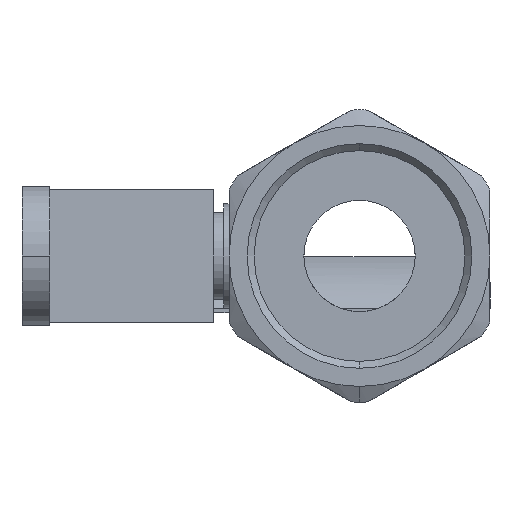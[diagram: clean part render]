
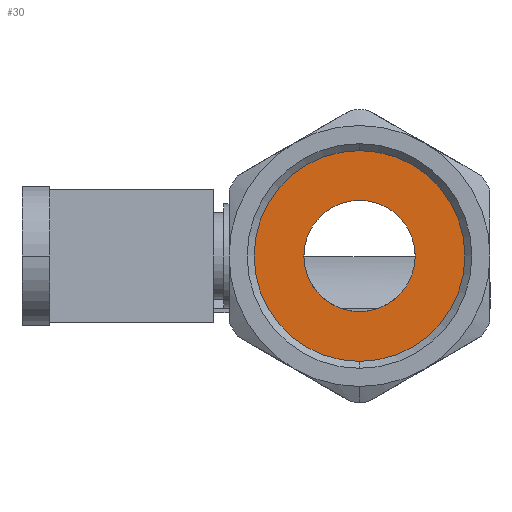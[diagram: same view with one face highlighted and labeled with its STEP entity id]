
A CAD part, left-side view. The second image highlights one B-rep face of the part: STEP entity #30.
In plain terms, the highlighted planar face has unit normal (-1, 0, 0).
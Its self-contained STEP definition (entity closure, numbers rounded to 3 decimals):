
#16 = CARTESIAN_POINT ( 'NONE',  ( -17.5, 0., -8. ) ) ;
#30 = ADVANCED_FACE ( 'NONE', ( #1115, #3441 ), #2626, .F. ) ;
#32 = AXIS2_PLACEMENT_3D ( 'NONE', #3119, #2874, #1114 ) ;
#83 = CIRCLE ( 'NONE', #2396, 15.145 ) ;
#323 = CARTESIAN_POINT ( 'NONE',  ( -17.5, 0., 0. ) ) ;
#515 = CARTESIAN_POINT ( 'NONE',  ( -17.5, 0., 0. ) ) ;
#622 = CIRCLE ( 'NONE', #1945, 8. ) ;
#627 = EDGE_CURVE ( 'NONE', #2382, #887, #1011, .T. ) ;
#638 = DIRECTION ( 'NONE',  ( 0., 0., 1. ) ) ;
#734 = EDGE_CURVE ( 'NONE', #3035, #3264, #622, .T. ) ;
#756 = CARTESIAN_POINT ( 'NONE',  ( -17.5, 0., 15.145 ) ) ;
#767 = CARTESIAN_POINT ( 'NONE',  ( -17.5, 0., 8. ) ) ;
#823 = DIRECTION ( 'NONE',  ( 0., 0., 1. ) ) ;
#842 = EDGE_LOOP ( 'NONE', ( #2654, #1974 ) ) ;
#887 = VERTEX_POINT ( 'NONE', #756 ) ;
#1011 = CIRCLE ( 'NONE', #3854, 15.145 ) ;
#1114 = DIRECTION ( 'NONE',  ( 0., 0., -1. ) ) ;
#1115 = FACE_BOUND ( 'NONE', #2944, .T. ) ;
#1164 = CARTESIAN_POINT ( 'NONE',  ( -17.5, 0., 0. ) ) ;
#1488 = DIRECTION ( 'NONE',  ( 0., 0., 1. ) ) ;
#1638 = DIRECTION ( 'NONE',  ( -1., 0., 0. ) ) ;
#1823 = CIRCLE ( 'NONE', #1975, 8. ) ;
#1945 = AXIS2_PLACEMENT_3D ( 'NONE', #3435, #1638, #3744 ) ;
#1974 = ORIENTED_EDGE ( 'NONE', *, *, #627, .T. ) ;
#1975 = AXIS2_PLACEMENT_3D ( 'NONE', #515, #2666, #823 ) ;
#2211 = EDGE_CURVE ( 'NONE', #3264, #3035, #1823, .T. ) ;
#2248 = EDGE_CURVE ( 'NONE', #887, #2382, #83, .T. ) ;
#2382 = VERTEX_POINT ( 'NONE', #2727 ) ;
#2396 = AXIS2_PLACEMENT_3D ( 'NONE', #1164, #3289, #1488 ) ;
#2474 = DIRECTION ( 'NONE',  ( -1., 0., 0. ) ) ;
#2626 = PLANE ( 'NONE',  #32 ) ;
#2654 = ORIENTED_EDGE ( 'NONE', *, *, #2248, .T. ) ;
#2666 = DIRECTION ( 'NONE',  ( -1., 0., 0. ) ) ;
#2727 = CARTESIAN_POINT ( 'NONE',  ( -17.5, 0., -15.145 ) ) ;
#2874 = DIRECTION ( 'NONE',  ( 1., 0., 0. ) ) ;
#2944 = EDGE_LOOP ( 'NONE', ( #3699, #3314 ) ) ;
#3035 = VERTEX_POINT ( 'NONE', #16 ) ;
#3119 = CARTESIAN_POINT ( 'NONE',  ( -17.5, 15.145, 0. ) ) ;
#3264 = VERTEX_POINT ( 'NONE', #767 ) ;
#3289 = DIRECTION ( 'NONE',  ( -1., 0., 0. ) ) ;
#3314 = ORIENTED_EDGE ( 'NONE', *, *, #734, .F. ) ;
#3435 = CARTESIAN_POINT ( 'NONE',  ( -17.5, 0., 0. ) ) ;
#3441 = FACE_OUTER_BOUND ( 'NONE', #842, .T. ) ;
#3699 = ORIENTED_EDGE ( 'NONE', *, *, #2211, .F. ) ;
#3744 = DIRECTION ( 'NONE',  ( 0., 0., 1. ) ) ;
#3854 = AXIS2_PLACEMENT_3D ( 'NONE', #323, #2474, #638 ) ;
